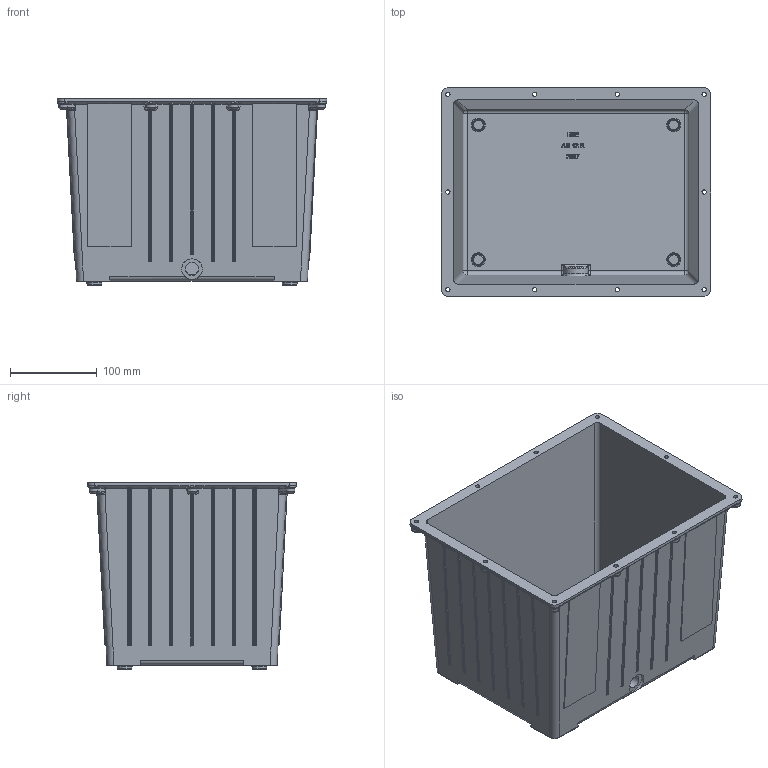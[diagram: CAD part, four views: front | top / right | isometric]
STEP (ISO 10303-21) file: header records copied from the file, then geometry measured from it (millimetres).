
FILE_DESCRIPTION( ( 'STEP AP203' ), '1' );
FILE_NAME( 'F:/HBE/Fertigungszeichnungen/Behälter AB 12 NR.stp', '2007-03-16T11:29:43', ( ' ' ), ( ' ' ), 'XStep 1.0', ' ', ' ' );
FILE_SCHEMA( ( 'CONFIG_CONTROL_DESIGN) ( )' ) );
Length unit declared in the file: metre
Products named in the file (1): 1
Bounding box: 310 x 240 x 215 mm (x, y, z)
Volume: 840791.3 mm3; surface area: 533560.5 mm2
Topology: 1 solids, 5 shells, 795 faces, 2048 edges, 1250 vertices
Faces by surface type: cylinder 290, plane 240, bspline 140, torus 62, extrusion 24, sphere 21, cone 18
Full cylindrical faces by diameter (mm): 4.917 x10, 6.647 x8, 14.95 x1, 24 x1
Entity records: 40214 total; most frequent: CARTESIAN_POINT 22568, ORIENTED_EDGE 3856, DIRECTION 3345, EDGE_CURVE 1928, AXIS2_PLACEMENT_3D 1288, VERTEX_POINT 1218, EDGE_LOOP 892, FACE_OUTER_BOUND 835
